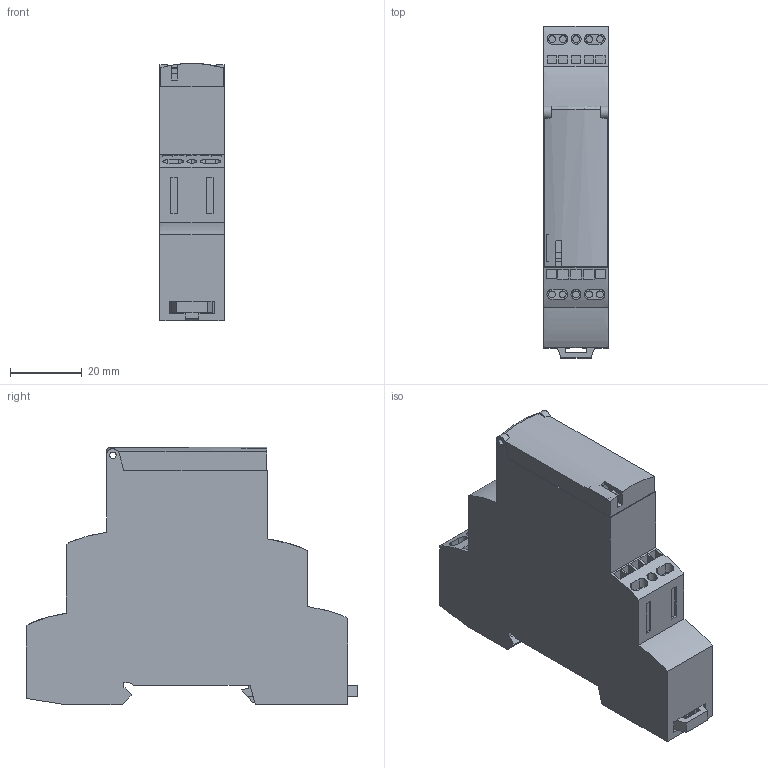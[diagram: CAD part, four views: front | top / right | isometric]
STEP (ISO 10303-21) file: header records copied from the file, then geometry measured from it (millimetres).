
FILE_DESCRIPTION((''),'2;1');
FILE_NAME('RE17RMMWS-3D','2021-01-15T12:37:06',('SESA231899'),('Schneider-Electric'),'CREO PARAMETRIC BY PTC INC, 2019164','CREO PARAMETRIC BY PTC INC, 2019164','');
FILE_SCHEMA(('AP242_MANAGED_MODEL_BASED_3D_ENGINEERING_MIM_LF { 1 0 10303 442 1 1 4 }'));
Length unit declared in the file: millimetre
Products named in the file (1): RE17RMMWS-3D
Bounding box: 17.9 x 92.8 x 71.97 mm (x, y, z)
Volume: 80953.9 mm3; surface area: 17336.8 mm2
Topology: 1 solids, 1 shells, 237 faces, 603 edges, 398 vertices
Faces by surface type: plane 181, cylinder 39, extrusion 16, torus 1
Entity records: 35327 total; most frequent: CARTESIAN_POINT 28642, ORIENTED_EDGE 1206, DIRECTION 1148, EDGE_CURVE 603, VECTOR 496, LINE 480, POLYLINE 462, VERTEX_POINT 398
